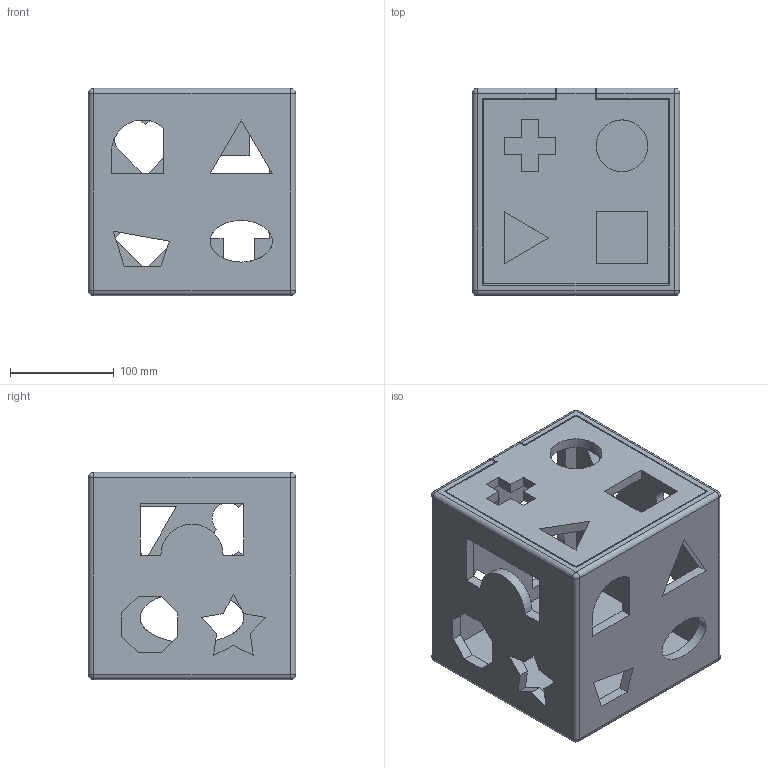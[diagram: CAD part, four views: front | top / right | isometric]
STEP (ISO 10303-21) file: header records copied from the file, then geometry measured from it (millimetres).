
FILE_DESCRIPTION(/* description */ (''),/* implementation_level */ '2;1');
FILE_NAME(/* name */ 'Juguete_nios_Frente.stp',/* time_stamp */ '2026-06-15T21:38:27+02:00',/* author */ ('algob'),/* organization */ (''),/* preprocessor_version */ 'ST-DEVELOPER v19.2',/* originating_system */ 'Autodesk Inventor 2024',/* authorisation */ '');
FILE_SCHEMA (('AUTOMOTIVE_DESIGN { 1 0 10303 214 3 1 1 }'));
Length unit declared in the file: millimetre
Products named in the file (1): Juguete_niños_Frente
Bounding box: 200 x 200 x 200 mm (x, y, z)
Volume: 1767658.1 mm3; surface area: 401703.8 mm2
Topology: 2 solids, 2 shells, 130 faces, 354 edges, 228 vertices
Faces by surface type: plane 96, cylinder 24, sphere 8, bspline 2
Full cylindrical faces by diameter (mm): 50 x1
Entity records: 4178 total; most frequent: CARTESIAN_POINT 747, ORIENTED_EDGE 708, DIRECTION 664, EDGE_CURVE 354, LINE 302, VECTOR 302, VERTEX_POINT 228, AXIS2_PLACEMENT_3D 181
